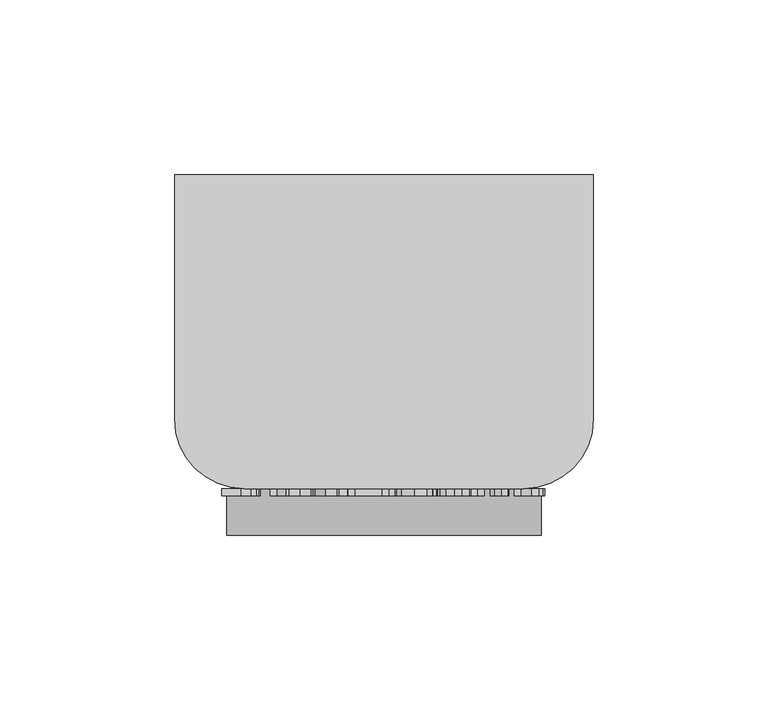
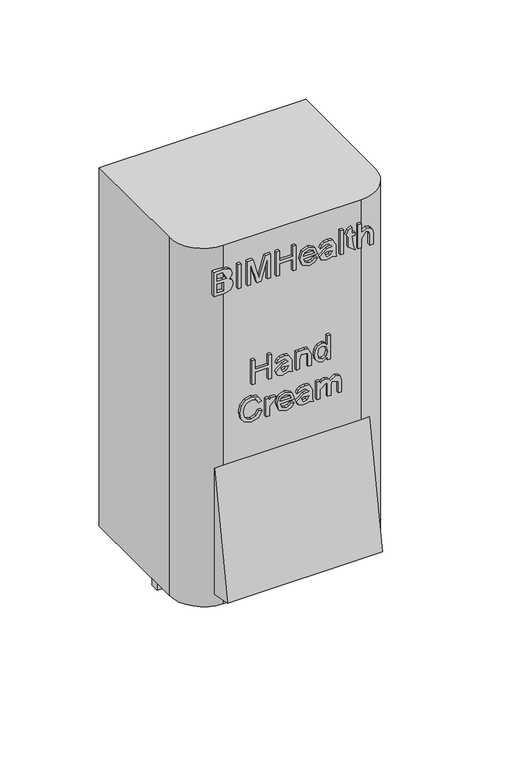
"""IFC4 building model written with IfcOpenShell, lengths in millimetres: proxy geometry, BIMHealth-Hand_Cream_Dispenser-LOD2A-v1 : BIMHealth-Hand_Cream_Dispenser-LOD2A-v1."""

from ifc_helpers import new_model, si_unit, frame, origin, place, context, project, spatial, polyline, circle_curve, outline, extrude, source, transform, mapped, element, save
from ifc_brep_helpers import plane_surface, cylinder_surface, revolved_surface, advanced_brep


def generic_models_abbf64a3(model_context):
    return source(origin(), model_context, "Body", "SolidModel", [
        advanced_brep(
        [(105.0, -90.0, 1285.0), (105.0, -103.2245236, 1210.0), (105.0, -90.0, 1207.6681597), (15.0, -90.0, 1285.0), (15.0, -90.0, 1207.6681597), (15.0, -103.2245236, 1210.0), (100.0, -90.0, 1285.0), (20.0, -90.0, 1285.0), (20.0, -90.0, 1207.6681597), (100.0, -90.0, 1207.6681597), (120.0, 0.0, 1420.0), (0.0, 0.0, 1420.0), (0.0, -70.0, 1420.0), (20.0, -90.0, 1420.0), (100.0, -90.0, 1420.0), (120.0, -70.0, 1420.0), (120.0, 0.0, 1200.0), (120.0, -70.0, 1200.0), (100.0, -90.0, 1200.0), (20.0, -90.0, 1200.0), (0.0, -70.0, 1200.0), (0.0, 0.0, 1200.0), (105.0, -28.5293941, 1200.0), (105.0, -22.9795216, 1200.0), (15.0, -22.9795216, 1200.0), (15.0, -28.5293941, 1200.0), (50.0, -57.3334755, 1200.0), (70.0, -57.3334755, 1200.0), (105.0, -27.2939412, 1175.1752078), (105.0, -32.3334755, 1175.1752078), (15.0, -27.2939412, 1175.1752078), (15.0, -32.3334755, 1175.1752078), (50.0, -57.3334755, 1190.0), (70.0, -57.3334755, 1190.0)],
        [
            (0, 1),
            (1, 2),
            (2, 0),
            (3, 4),
            (4, 5),
            (5, 3),
            (0, 6),
            (6, 7),
            (7, 3),
            (5, 1),
            (4, 8),
            (8, 9),
            (9, 2),
            (9, 6),
            (7, 8),
            (10, 11),
            (11, 12),
            (12, 13, circle_curve(frame((20.0, -70.0, 1420.0), z_axis=(0.0, 0.0, 1.0), x_axis=(1.0, 0.0, 0.0)), 20.0)),
            (13, 14),
            (14, 15, circle_curve(frame((100.0, -70.0, 1420.0), z_axis=(0.0, 0.0, 1.0), x_axis=(-1.0, 0.0, 0.0)), 20.0)),
            (15, 10),
            (16, 17),
            (17, 18, circle_curve(frame((100.0, -70.0, 1200.0), z_axis=(0.0, 0.0, -1.0), x_axis=(-1.0, 0.0, 0.0)), 20.0)),
            (18, 19),
            (19, 20, circle_curve(frame((20.0, -70.0, 1200.0), z_axis=(0.0, 0.0, -1.0), x_axis=(1.0, 0.0, 0.0)), 20.0)),
            (20, 21),
            (21, 16),
            (22, 23),
            (23, 24),
            (24, 25),
            (25, 22),
            (26, 27, circle_curve(frame((60.0, -57.3334755, 1200.0), z_axis=(0.0, 0.0, 1.0), x_axis=(1.0, 0.0, 0.0)), 10.0)),
            (27, 26, circle_curve(frame((60.0, -57.3334755, 1200.0), z_axis=(0.0, 0.0, 1.0), x_axis=(1.0, 0.0, 0.0)), 10.0)),
            (10, 16),
            (21, 11),
            (20, 12),
            (19, 8),
            (7, 13),
            (6, 14),
            (18, 9),
            (17, 15),
            (28, 23, circle_curve(frame((105.0, 14.3301993, 1180.7284569), z_axis=(-1.0, 0.0, 0.0), x_axis=(0.0, -1.0, 0.0)), 41.9929476)),
            (22, 29, circle_curve(frame((105.0, 14.3301993, 1180.7284569), z_axis=(1.0, 0.0, 0.0), x_axis=(0.0, -1.0, 0.0)), 46.9929476)),
            (29, 28),
            (30, 31),
            (31, 25, circle_curve(frame((15.0, 14.3301993, 1180.7284569), z_axis=(-1.0, 0.0, 0.0), x_axis=(0.0, -1.0, 0.0)), 46.9929476)),
            (24, 30, circle_curve(frame((15.0, 14.3301993, 1180.7284569), z_axis=(1.0, 0.0, 0.0), x_axis=(0.0, -1.0, 0.0)), 41.9929476)),
            (28, 30),
            (31, 29),
            (32, 33, circle_curve(frame((60.0, -57.3334755, 1190.0), z_axis=(0.0, 0.0, -1.0), x_axis=(1.0, 0.0, 0.0)), 10.0)),
            (33, 32, circle_curve(frame((60.0, -57.3334755, 1190.0), z_axis=(0.0, 0.0, -1.0), x_axis=(1.0, 0.0, 0.0)), 10.0)),
            (33, 27),
            (26, 32),
        ],
        [
            plane_surface(frame((105.0, -90.0, 1285.0), z_axis=(1.0, 0.0, 0.0), x_axis=(0.0, -0.17364817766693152, -0.9848077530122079))),
            plane_surface(frame((15.0, -90.0, 1285.0), z_axis=(-1.0, 0.0, 0.0), x_axis=(0.0, 0.17364817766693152, 0.9848077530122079))),
            plane_surface(frame((105.0, -90.0, 1285.0), z_axis=(0.0, -0.9848077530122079, 0.17364817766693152), x_axis=(-1.0, 0.0, 0.0))),
            plane_surface(frame((105.0, -103.2245236, 1210.0), z_axis=(0.0, -0.173648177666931, -0.984807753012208), x_axis=(-1.0, 0.0, 0.0))),
            plane_surface(frame((105.0, -90.0, 1207.6681597), z_axis=(0.0, 1.0, 0.0), x_axis=(-1.0, 0.0, 0.0))),
            plane_surface(frame((0.0, 0.0, 1420.0), z_axis=(0.0, 0.0, 1.0), x_axis=(-1.0, 0.0, 0.0))),
            plane_surface(frame((0.0, 0.0, 1200.0), z_axis=(0.0, 0.0, -1.0), x_axis=(1.0, 0.0, 0.0))),
            plane_surface(frame((120.0, 0.0, 1420.0), z_axis=(0.0, 1.0, 0.0), x_axis=(0.0, 0.0, -1.0))),
            plane_surface(frame((0.0, 0.0, 1420.0), z_axis=(-1.0, 0.0, 0.0), x_axis=(0.0, 0.0, -1.0))),
            cylinder_surface(frame((20.0, -70.0, 1200.0), z_axis=(0.0, 0.0, 1.0), x_axis=(1.0, 0.0, 0.0)), 20.0),
            plane_surface(frame((20.0, -90.0, 1420.0), z_axis=(0.0, -1.0, 0.0), x_axis=(0.0, 0.0, -1.0))),
            cylinder_surface(frame((100.0, -70.0, 1200.0), z_axis=(0.0, 0.0, 1.0), x_axis=(-1.0, 0.0, 0.0)), 20.0),
            plane_surface(frame((120.0, -70.0, 1420.0), z_axis=(1.0, 0.0, 0.0), x_axis=(0.0, 0.0, -1.0))),
            plane_surface(frame((105.0, -27.6627483, 1180.7284569), z_axis=(1.0, 0.0, 0.0), x_axis=(0.0, 0.0, 1.0))),
            plane_surface(frame((15.0, -27.6627483, 1180.7284569), z_axis=(-1.0, 0.0, 0.0), x_axis=(0.0, 0.0, -1.0))),
            revolved_surface(polyline([(15.0, -27.6627483, 1180.7284569), (105.0, -27.6627483, 1180.7284569)]), (15.0, 14.3301993, 1180.7284569), (-1.0, 0.0, 0.0)),
            cylinder_surface(frame((15.0, 14.3301993, 1180.7284569), z_axis=(1.0, 0.0, 0.0), x_axis=(0.0, -1.0, 0.0)), 46.9929476),
            plane_surface(frame((105.0, -32.3334755, 1175.1752078), z_axis=(0.0, 0.0, -1.0), x_axis=(-1.0, 0.0, 0.0))),
            plane_surface(frame((70.0, -57.3334755, 1190.0), z_axis=(0.0, 0.0, -1.0), x_axis=(0.0, -1.0, 0.0))),
            cylinder_surface(frame((60.0, -57.3334755, 1190.0), z_axis=(0.0, 0.0, 1.0), x_axis=(1.0, 0.0, 0.0)), 10.0),
        ],
        [
            (0, [[1, 2, 3]]),
            (1, [[4, 5, 6]]),
            (2, [[-1, 7, 8, 9, -6, 10]]),
            (3, [[-2, -10, -5, 11, 12, 13]]),
            (4, [[-3, -13, 14, -7]]),
            (4, [[-4, -9, 15, -11]]),
            (5, [[16, 17, 18, 19, 20, 21]]),
            (6, [[22, 23, 24, 25, 26, 27], [28, 29, 30, 31], [32, 33]]),
            (7, [[-16, 34, -27, 35]]),
            (8, [[-17, -35, -26, 36]]),
            (9, [[-18, -36, -25, 37, -15, 38]]),
            (10, [[-19, -38, -8, 39]]),
            (10, [[-24, 40, -12, -37]]),
            (11, [[-20, -39, -14, -40, -23, 41]]),
            (12, [[-21, -41, -22, -34]]),
            (13, [[42, -28, 43, 44]]),
            (14, [[45, 46, -30, 47]]),
            (15, [[-42, 48, -47, -29]]),
            (16, [[-43, -31, -46, 49]]),
            (17, [[-44, -49, -45, -48]]),
            (18, [[50, 51]]),
            (19, [[-51, 52, -32, 53]]),
            (19, [[-50, -53, -33, -52]]),
        ],
    ),
        extrude(outline(polyline([(1330.1664451, 35.5223483), (1330.1664451, 37.3685022), (1337.0895221, 37.3685022), (1337.0895221, 45.214656), (1330.1664451, 45.214656), (1330.1664451, 47.0608099), (1344.9356759, 47.0608099), (1344.9356759, 45.214656), (1338.9356759, 45.214656), (1338.9356759, 37.3685022), (1344.9356759, 37.3685022), (1344.9356759, 35.5223483), (1330.1664451, 35.5223483)])), frame((0.0, -92.0, 0.0), z_axis=(0.0, 1.0, 0.0), x_axis=(0.0, 0.0, 1.0)), (0.0, 0.0, 1.0), 2.0),
        extrude(outline(polyline([(1330.8587528, 57.214656), (1330.1664451, 59.2915791), (1331.7187288, 58.9237906), (1334.9260605, 58.8300406), (1337.2229355, 58.8300406), (1340.9152432, 56.9099685), (1341.2433682, 54.6725887), (1340.871974, 52.2368916), (1339.8154836, 50.6287185), (1338.012599, 49.8300406), (1339.0420461, 52.5668195), (1339.3972144, 54.4346079), (1337.0895221, 56.9730695), (1336.4549067, 53.7711464), (1333.0510605, 49.5992714), (1330.8118778, 50.5349685), (1329.9356759, 53.2158579), (1330.2998586, 55.1936224), (1330.8587528, 57.214656)]), holes=[polyline([(1334.2680076, 56.8324445), (1332.2235365, 55.4766753), (1331.7818298, 53.6088868), (1334.3779836, 52.4171801), (1334.6772625, 54.0055214), (1334.2680076, 56.8324445)])]), frame((0.0, -92.0, 0.0), z_axis=(0.0, 1.0, 0.0), x_axis=(0.0, 0.0, 1.0)), (0.0, 0.0, 1.0), 2.0),
        extrude(outline(polyline([(1330.1664451, 61.3685022), (1330.1664451, 63.214656), (1335.9212528, 63.214656), (1338.6724548, 64.0566031), (1338.2109163, 68.0788387), (1336.5775028, 68.2915791), (1330.1664451, 68.2915791), (1330.1664451, 70.1377329), (1336.8263009, 70.1377329), (1340.8918057, 68.2969878), (1341.2433682, 66.5535983), (1341.012599, 63.214656), (1341.012599, 61.3685022), (1330.1664451, 61.3685022)])), frame((0.0, -92.0, 0.0), z_axis=(0.0, 1.0, 0.0), x_axis=(0.0, 0.0, 1.0)), (0.0, 0.0, 1.0), 2.0),
        extrude(outline(polyline([(1330.1664451, 79.3685022), (1330.1664451, 81.214656), (1344.9356759, 81.214656), (1344.9356759, 79.3685022), (1339.4332721, 79.3685022), (1340.7403634, 78.1533579), (1341.2433682, 76.4514349), (1340.5402432, 74.0950647), (1338.5174067, 72.512132), (1335.5787048, 71.9838868), (1332.6418057, 72.5572041), (1330.6496182, 74.1725887), (1329.9356759, 76.4586464), (1331.9080317, 79.3685022), (1330.1664451, 79.3685022)]), holes=[polyline([(1335.5859163, 73.8300406), (1338.4795461, 74.6088868), (1339.3972144, 76.5523964), (1338.4416855, 78.5554012), (1335.4452913, 79.3685022), (1332.685075, 78.5698243), (1331.7818298, 76.6281176), (1332.7283442, 74.6629733), (1335.5859163, 73.8300406)])]), frame((0.0, -92.0, 0.0), z_axis=(0.0, 1.0, 0.0), x_axis=(0.0, 0.0, 1.0)), (0.0, 0.0, 1.0), 2.0),
        extrude(outline(polyline([(1391.9233699, 13.5206171), (1391.9233699, 19.1131652), (1392.1775767, 21.4803527), (1392.9275767, 23.0867229), (1394.3410382, 24.163045), (1396.3260142, 24.5975402), (1398.6228892, 23.9611219), (1400.000293, 22.1420114), (1401.3073844, 23.6402085), (1403.0327449, 24.1360017), (1404.922168, 23.5464585), (1406.2581055, 21.9166508), (1406.6926007, 19.1564344), (1406.6926007, 13.5206171), (1391.9233699, 13.5206171)]), holes=[polyline([(1393.7695238, 15.366771), (1398.8464469, 15.366771), (1398.8464469, 18.9725402), (1393.7695238, 19.1528287), (1393.7695238, 15.366771)]), polyline([(1400.6926007, 15.366771), (1404.8464469, 15.366771), (1404.8464469, 18.4821556), (1400.8512546, 20.7069152), (1400.6926007, 18.7381652), (1400.6926007, 15.366771)])]), frame((0.0, -92.0, 0.0), z_axis=(0.0, 1.0, 0.0), x_axis=(0.0, 0.0, 1.0)), (0.0, 0.0, 1.0), 2.0),
        extrude(outline(polyline([(29.2129248, -92.0), (27.366771, -92.0), (27.366771, -90.0), (29.2129248, -90.0), (29.2129248, -92.0)])), frame((0.0, 0.0, 1391.9233699), z_axis=(0.0, 0.0, 1.0), x_axis=(1.0, 0.0, 0.0)), (0.0, 0.0, 1.0), 14.7692308),
        extrude(outline(polyline([(1391.9233699, 32.9052325), (1391.9233699, 34.7513864), (1404.8464469, 34.7513864), (1391.9233699, 38.4653287), (1391.9233699, 40.9641267), (1404.8464469, 44.6744633), (1391.9233699, 44.6744633), (1391.9233699, 46.5206171), (1406.6926007, 46.5206171), (1406.6926007, 43.3439344), (1396.4630334, 40.3727806), (1394.1084661, 39.7129248), (1396.2827449, 39.0999441), (1406.6926007, 36.0710979), (1406.6926007, 32.9052325), (1391.9233699, 32.9052325)])), frame((0.0, -92.0, 0.0), z_axis=(0.0, 1.0, 0.0), x_axis=(0.0, 0.0, 1.0)), (0.0, 0.0, 1.0), 2.0),
        extrude(outline(polyline([(1391.9233699, 49.7513864), (1391.9233699, 51.5975402), (1398.8464469, 51.5975402), (1398.8464469, 59.4436941), (1391.9233699, 59.4436941), (1391.9233699, 61.2898479), (1406.6926007, 61.2898479), (1406.6926007, 59.4436941), (1400.6926007, 59.4436941), (1400.6926007, 51.5975402), (1406.6926007, 51.5975402), (1406.6926007, 49.7513864), (1391.9233699, 49.7513864)])), frame((0.0, -92.0, 0.0), z_axis=(0.0, 1.0, 0.0), x_axis=(0.0, 0.0, 1.0)), (0.0, 0.0, 1.0), 2.0),
        extrude(outline(polyline([(1395.1541392, 71.8835979), (1393.9245719, 70.6936941), (1393.5387546, 68.8835979), (1394.3716873, 66.5055931), (1396.7695238, 65.4436941), (1397.2671199, 73.7513864), (1401.4966873, 72.350545), (1403.000293, 68.7429729), (1401.4930815, 65.0290306), (1397.2563026, 63.5975402), (1393.1547401, 65.0146075), (1391.6926007, 68.8475402), (1392.5399565, 72.0007854), (1394.9233699, 73.6936941), (1395.1541392, 71.8835979)]), holes=[polyline([(1398.6156776, 65.4436941), (1400.4636344, 66.4623239), (1401.1541392, 68.7357614), (1400.2887546, 71.1660498), (1398.6156776, 71.9052325), (1398.6156776, 65.4436941)])]), frame((0.0, -92.0, 0.0), z_axis=(0.0, 1.0, 0.0), x_axis=(0.0, 0.0, 1.0)), (0.0, 0.0, 1.0), 2.0),
        extrude(outline(polyline([(1392.6156776, 82.7513864), (1391.9233699, 84.8283094), (1393.4756536, 84.460521), (1396.6829853, 84.366771), (1398.9798603, 84.366771), (1402.672168, 82.4466989), (1403.000293, 80.2093191), (1402.6288988, 77.7736219), (1401.5724084, 76.1654489), (1399.7695238, 75.366771), (1400.7989709, 78.1035498), (1401.1541392, 79.9713383), (1398.8464469, 82.5097998), (1398.2118315, 79.3078767), (1394.8079853, 75.1360017), (1392.5688026, 76.0716989), (1391.6926007, 78.7525883), (1392.0567834, 80.7303527), (1392.6156776, 82.7513864)]), holes=[polyline([(1396.0249324, 82.3691748), (1393.9804613, 81.0134056), (1393.5387546, 79.1456171), (1396.1349084, 77.9539104), (1396.4341873, 79.5422517), (1396.0249324, 82.3691748)])]), frame((0.0, -92.0, 0.0), z_axis=(0.0, 1.0, 0.0), x_axis=(0.0, 0.0, 1.0)), (0.0, 0.0, 1.0), 2.0),
        extrude(outline(polyline([(88.7513864, -92.0), (86.9052325, -92.0), (86.9052325, -90.0), (88.7513864, -90.0), (88.7513864, -92.0)])), frame((0.0, 0.0, 1391.9233699), z_axis=(0.0, 0.0, 1.0), x_axis=(1.0, 0.0, 0.0)), (0.0, 0.0, 1.0), 14.7692308),
        extrude(outline(polyline([(1394.2076248, 94.5206171), (1400.9233699, 93.5975402), (1400.9233699, 95.4436941), (1402.7695238, 95.4436941), (1402.7695238, 93.5975402), (1406.4906776, 93.5975402), (1405.4053411, 91.7513864), (1402.7695238, 90.366771), (1400.9233699, 91.7513864), (1394.8981296, 91.7513864), (1391.8692834, 95.6744633), (1394.2076248, 94.5206171)])), frame((0.0, -92.0, 0.0), z_axis=(0.0, 1.0, 0.0), x_axis=(0.0, 0.0, 1.0)), (0.0, 0.0, 1.0), 2.0),
        extrude(outline(polyline([(1391.9233699, 97.2898479), (1391.9233699, 99.1360017), (1397.6853892, 99.1360017), (1401.1541392, 101.9593191), (1400.5447642, 103.6251844), (1398.5976488, 104.2129248), (1391.9233699, 104.2129248), (1391.9233699, 106.0590787), (1398.7887546, 106.0590787), (1401.2154373, 105.6804729), (1402.5261344, 104.4220594), (1403.000293, 102.3487421), (1401.2623123, 99.1360017), (1406.6926007, 99.1360017), (1406.6926007, 97.2898479), (1391.9233699, 97.2898479)])), frame((0.0, -92.0, 0.0), z_axis=(0.0, 1.0, 0.0), x_axis=(0.0, 0.0, 1.0)), (0.0, 0.0, 1.0), 2.0),
        extrude(outline(polyline([(1312.9164451, 39.6569637), (1310.1976951, 38.090257), (1309.2818298, 35.2651368), (1309.9543057, 32.7176608), (1311.9861567, 30.9832858), (1315.1664451, 30.4261945), (1317.9104355, 30.8967474), (1320.0306278, 32.5283579), (1320.8202913, 35.4165791), (1320.1081519, 37.9117714), (1317.8383201, 39.4261945), (1318.278224, 41.2723483), (1321.5162048, 39.1864108), (1322.6664451, 35.4886945), (1321.777623, 31.9406176), (1319.1760605, 29.4544397), (1315.1628394, 28.5800406), (1311.2145221, 29.3534781), (1308.4056278, 31.6070839), (1307.4356759, 35.449031), (1308.7175269, 39.3144156), (1312.4404836, 41.5031176), (1312.9164451, 39.6569637)])), frame((0.0, -92.0, 0.0), z_axis=(0.0, 1.0, 0.0), x_axis=(0.0, 0.0, 1.0)), (0.0, 0.0, 1.0), 2.0),
        extrude(outline(polyline([(1307.6664451, 43.8108099), (1307.6664451, 45.6569637), (1313.3671663, 45.6569637), (1316.5186086, 48.9634541), (1318.1736567, 49.5800406), (1318.3863971, 46.5728291), (1316.9080317, 45.4261945), (1318.512599, 45.4261945), (1318.512599, 43.8108099), (1307.6664451, 43.8108099)])), frame((0.0, -92.0, 0.0), z_axis=(0.0, 1.0, 0.0), x_axis=(0.0, 0.0, 1.0)), (0.0, 0.0, 1.0), 2.0),
        extrude(outline(polyline([(1310.8972144, 58.3276368), (1309.6676471, 57.1377329), (1309.2818298, 55.3276368), (1310.1147625, 52.949632), (1312.512599, 51.8877329), (1313.0101951, 60.1954253), (1317.2397625, 58.7945839), (1318.7433682, 55.1870118), (1317.2361567, 51.4730695), (1312.9993778, 50.0415791), (1308.8978153, 51.4586464), (1307.4356759, 55.2915791), (1308.2830317, 58.4448243), (1310.6664451, 60.1377329), (1310.8972144, 58.3276368)]), holes=[polyline([(1314.3587528, 51.8877329), (1316.2067096, 52.9063628), (1316.8972144, 55.1798003), (1316.0318298, 57.6100887), (1314.3587528, 58.3492714), (1314.3587528, 51.8877329)])]), frame((0.0, -92.0, 0.0), z_axis=(0.0, 1.0, 0.0), x_axis=(0.0, 0.0, 1.0)), (0.0, 0.0, 1.0), 2.0),
        extrude(outline(polyline([(1308.3587528, 69.1954253), (1307.6664451, 71.2723483), (1309.2187288, 70.9045599), (1312.4260605, 70.8108099), (1314.7229355, 70.8108099), (1318.4152432, 68.8907378), (1318.7433682, 66.6533579), (1318.371974, 64.2176608), (1317.3154836, 62.6094878), (1315.512599, 61.8108099), (1316.5420461, 64.5475887), (1316.8972144, 66.4153772), (1314.5895221, 68.9538387), (1313.9549067, 65.7519156), (1310.5510605, 61.5800406), (1308.3118778, 62.5157378), (1307.4356759, 65.1966272), (1307.7998586, 67.1743916), (1308.3587528, 69.1954253)]), holes=[polyline([(1311.7680076, 68.8132137), (1309.7235365, 67.4574445), (1309.2818298, 65.589656), (1311.8779836, 64.3979493), (1312.1772625, 65.9862906), (1311.7680076, 68.8132137)])]), frame((0.0, -92.0, 0.0), z_axis=(0.0, 1.0, 0.0), x_axis=(0.0, 0.0, 1.0)), (0.0, 0.0, 1.0), 2.0),
        extrude(outline(polyline([(1307.6664451, 73.3492714), (1307.6664451, 75.1954253), (1313.1363971, 75.1954253), (1316.3022625, 79.152757), (1314.5138009, 79.5800406), (1307.6664451, 79.5800406), (1307.6664451, 81.4261945), (1313.7890413, 81.4261945), (1316.1580317, 82.1491512), (1314.3082721, 85.8108099), (1307.6664451, 85.8108099), (1307.6664451, 87.6569637), (1315.1015413, 87.6569637), (1317.8509403, 86.8114108), (1318.7433682, 84.3973483), (1316.5979355, 81.1377329), (1318.1790653, 80.120906), (1318.7433682, 78.2711464), (1318.1898826, 76.464656), (1316.7277432, 75.1954253), (1318.512599, 75.1954253), (1318.512599, 73.3492714), (1307.6664451, 73.3492714)])), frame((0.0, -92.0, 0.0), z_axis=(0.0, 1.0, 0.0), x_axis=(0.0, 0.0, 1.0)), (0.0, 0.0, 1.0), 2.0),
    ])


if __name__ == "__main__":
    model = new_model("IFC4")
    model_context = context("Model", 3, world=origin())
    ifc_project = project(units=[si_unit("LENGTHUNIT", "METRE", prefix="MILLI")], contexts=[model_context])
    site = spatial("IfcSite", under=ifc_project)
    building = spatial("IfcBuilding", under=site)
    placement = place(None, origin())
    generic_models_shape = generic_models_abbf64a3(model_context)
    element("IfcBuildingElementProxy", 1, Name="BIMHealth-Hand_Cream_Dispenser-LOD2A-v1 : BIMHealth-Hand_Cream_Dispenser-LOD2A-v1", ObjectType="BIMHealth-Hand_Cream_Dispenser-LOD2A-v1 : BIMHealth-Hand_Cream_Dispenser-LOD2A-v1", at=placement, inside=building, context=model_context, shape_type="MappedRepresentation", body=[
        mapped(generic_models_shape, transform((0.0, 0.0, 0.0), x_axis=(1.0, 0.0, 0.0), y_axis=(0.0, 1.0, 0.0), z_axis=(0.0, 0.0, 1.0))),
    ])
    save(model, "model.ifc")
